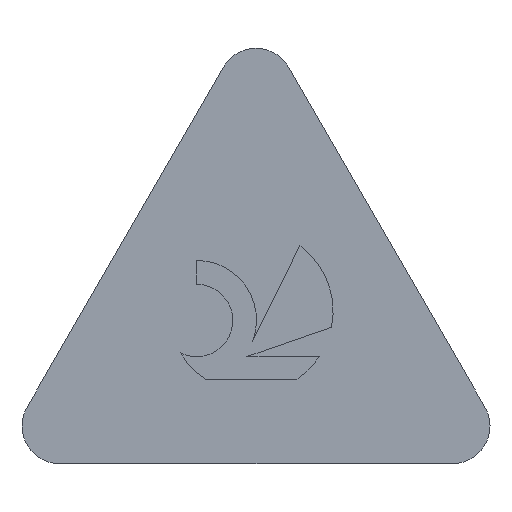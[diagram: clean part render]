
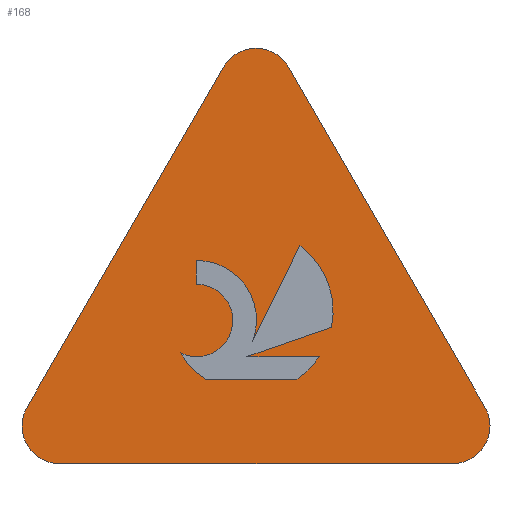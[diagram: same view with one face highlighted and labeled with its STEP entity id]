
A CAD part, top view. The second image highlights one B-rep face of the part: STEP entity #168.
In plain terms, the highlighted planar face has unit normal (0, 0, 1).
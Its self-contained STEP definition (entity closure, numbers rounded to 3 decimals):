
#130=EDGE_CURVE('',#166,#314,#358,.T.);
#132=VERTEX_POINT('',#360);
#142=VERTEX_POINT('',#371);
#146=VERTEX_POINT('',#375);
#154=VERTEX_POINT('',#386);
#166=VERTEX_POINT('',#399);
#168=ADVANCED_FACE('',(#401,#402),#403,.T.);
#172=VERTEX_POINT('',#407);
#182=EDGE_CURVE('',#146,#318,#418,.T.);
#184=EDGE_CURVE('',#132,#142,#420,.T.);
#188=VERTEX_POINT('',#424);
#194=VERTEX_POINT('',#431);
#198=VERTEX_POINT('',#435);
#206=EDGE_CURVE('',#306,#146,#444,.T.);
#216=EDGE_CURVE('',#284,#132,#454,.T.);
#234=VERTEX_POINT('',#473);
#240=EDGE_CURVE('',#272,#172,#479,.T.);
#248=EDGE_CURVE('',#154,#294,#487,.T.);
#252=EDGE_CURVE('',#142,#234,#491,.T.);
#260=EDGE_CURVE('',#234,#272,#500,.T.);
#272=VERTEX_POINT('',#514);
#274=EDGE_CURVE('',#198,#154,#516,.T.);
#276=EDGE_CURVE('',#288,#188,#518,.T.);
#280=EDGE_CURVE('',#194,#306,#523,.T.);
#284=VERTEX_POINT('',#528);
#288=VERTEX_POINT('',#532);
#294=VERTEX_POINT('',#538);
#306=VERTEX_POINT('',#551);
#310=EDGE_CURVE('',#172,#284,#555,.T.);
#314=VERTEX_POINT('',#559);
#318=VERTEX_POINT('',#564);
#326=EDGE_CURVE('',#314,#194,#573,.T.);
#334=EDGE_CURVE('',#294,#288,#583,.T.);
#338=EDGE_CURVE('',#188,#166,#587,.T.);
#340=EDGE_CURVE('',#318,#198,#589,.T.);
#358=LINE('',#598,#599);
#360=CARTESIAN_POINT('',(10.311,1.191,0.0));
#371=CARTESIAN_POINT('',(6.187,8.334,0.0));
#375=CARTESIAN_POINT('',(3.912,2.329,0.0));
#386=CARTESIAN_POINT('',(4.247,4.27,0.0));
#399=CARTESIAN_POINT('',(5.309,2.25,0.0));
#401=FACE_BOUND('',#652,.T.);
#402=FACE_OUTER_BOUND('',#653,.T.);
#403=PLANE('',#654);
#407=CARTESIAN_POINT('',(1.375,0.0,0.0));
#418=CIRCLE('',#677,0.761);
#420=LINE('',#680,#681);
#424=CARTESIAN_POINT('',(7.087,2.868,0.0));
#431=CARTESIAN_POINT('',(6.336,1.76,0.0));
#435=CARTESIAN_POINT('',(4.247,3.77,0.0));
#444=CIRCLE('',#709,1.724);
#454=CIRCLE('',#724,0.794);
#473=CARTESIAN_POINT('',(4.812,8.334,0.0));
#479=CIRCLE('',#758,0.794);
#487=CIRCLE('',#770,1.252);
#491=CIRCLE('',#777,0.794);
#500=LINE('',#789,#790);
#514=CARTESIAN_POINT('',(0.688,1.191,0.0));
#516=LINE('',#810,#811);
#518=CIRCLE('',#814,1.724);
#523=LINE('',#820,#821);
#528=CARTESIAN_POINT('',(9.623,0.0,0.0));
#532=CARTESIAN_POINT('',(6.422,4.59,0.0));
#538=CARTESIAN_POINT('',(5.426,2.568,0.0));
#551=CARTESIAN_POINT('',(4.457,1.76,0.0));
#555=LINE('',#865,#866);
#559=CARTESIAN_POINT('',(6.831,2.25,0.0));
#564=CARTESIAN_POINT('',(4.593,3.69,0.0));
#573=CIRCLE('',#887,1.724);
#583=LINE('',#900,#901);
#587=LINE('',#907,#908);
#589=CIRCLE('',#911,0.761);
#598=CARTESIAN_POINT('',(6.165,2.25,0.0));
#599=VECTOR('',#913,1.0);
#652=EDGE_LOOP('',(#972,#973,#974,#975,#976,#977,#978,#979,#980,#981,#982));
#653=EDGE_LOOP('',(#983,#984,#985,#986,#987,#988));
#654=AXIS2_PLACEMENT_3D('',#989,#990,#991);
#677=AXIS2_PLACEMENT_3D('',#1006,#1007,#1008);
#680=CARTESIAN_POINT('',(10.311,1.191,0.0));
#681=VECTOR('',#1009,1.0);
#709=AXIS2_PLACEMENT_3D('',#1029,#1030,#1031);
#724=AXIS2_PLACEMENT_3D('',#1034,#1035,#1036);
#758=AXIS2_PLACEMENT_3D('',#1049,#1050,#1051);
#770=AXIS2_PLACEMENT_3D('',#1056,#1057,#1058);
#777=AXIS2_PLACEMENT_3D('',#1060,#1061,#1062);
#789=CARTESIAN_POINT('',(4.812,8.334,0.0));
#790=VECTOR('',#1079,1.0);
#810=CARTESIAN_POINT('',(4.247,3.723,0.0));
#811=VECTOR('',#1100,1.0);
#814=AXIS2_PLACEMENT_3D('',#1101,#1102,#1103);
#820=CARTESIAN_POINT('',(4.978,1.76,0.0));
#821=VECTOR('',#1112,1.0);
#865=CARTESIAN_POINT('',(1.375,0.0,0.0));
#866=VECTOR('',#1137,1.0);
#887=AXIS2_PLACEMENT_3D('',#1155,#1156,#1157);
#900=CARTESIAN_POINT('',(6.051,3.838,0.0));
#901=VECTOR('',#1175,1.0);
#907=CARTESIAN_POINT('',(5.537,2.33,0.0));
#908=VECTOR('',#1179,1.0);
#911=AXIS2_PLACEMENT_3D('',#1180,#1181,#1182);
#913=DIRECTION('',(1.0,0.0,0.0));
#972=ORIENTED_EDGE('',*,*,#274,.T.);
#973=ORIENTED_EDGE('',*,*,#248,.T.);
#974=ORIENTED_EDGE('',*,*,#334,.T.);
#975=ORIENTED_EDGE('',*,*,#276,.T.);
#976=ORIENTED_EDGE('',*,*,#338,.T.);
#977=ORIENTED_EDGE('',*,*,#130,.T.);
#978=ORIENTED_EDGE('',*,*,#326,.T.);
#979=ORIENTED_EDGE('',*,*,#280,.T.);
#980=ORIENTED_EDGE('',*,*,#206,.T.);
#981=ORIENTED_EDGE('',*,*,#182,.T.);
#982=ORIENTED_EDGE('',*,*,#340,.T.);
#983=ORIENTED_EDGE('',*,*,#310,.T.);
#984=ORIENTED_EDGE('',*,*,#216,.T.);
#985=ORIENTED_EDGE('',*,*,#184,.T.);
#986=ORIENTED_EDGE('',*,*,#252,.T.);
#987=ORIENTED_EDGE('',*,*,#260,.T.);
#988=ORIENTED_EDGE('',*,*,#240,.T.);
#989=CARTESIAN_POINT('',(5.499,3.175,0.0));
#990=DIRECTION('',(0.0,0.0,1.0));
#991=DIRECTION('',(1.0,0.0,0.0));
#1006=CARTESIAN_POINT('',(4.252,3.009,0.0));
#1007=DIRECTION('',(0.0,0.0,1.0));
#1008=DIRECTION('',(-0.447,-0.894,0.0));
#1009=DIRECTION('',(-0.5,0.866,0.0));
#1029=CARTESIAN_POINT('',(5.396,3.205,0.0));
#1030=DIRECTION('',(-0.0,0.0,-1.0));
#1031=DIRECTION('',(-0.861,-0.508,0.0));
#1034=CARTESIAN_POINT('',(9.623,0.794,0.0));
#1035=DIRECTION('',(0.0,0.0,1.0));
#1036=DIRECTION('',(0.,-1.0,0.0));
#1049=CARTESIAN_POINT('',(1.375,0.794,0.0));
#1050=DIRECTION('',(0.0,0.0,1.0));
#1051=DIRECTION('',(-0.866,0.5,0.0));
#1056=CARTESIAN_POINT('',(4.257,3.018,0.0));
#1057=DIRECTION('',(0.0,-0.0,-1.0));
#1058=DIRECTION('',(0.933,-0.359,0.0));
#1060=CARTESIAN_POINT('',(5.499,7.937,0.0));
#1061=DIRECTION('',(0.0,-0.0,1.0));
#1062=DIRECTION('',(0.866,0.5,0.0));
#1079=DIRECTION('',(-0.5,-0.866,0.0));
#1100=DIRECTION('',(0.0,1.0,0.0));
#1101=CARTESIAN_POINT('',(5.396,3.205,0.0));
#1102=DIRECTION('',(0.0,-0.0,-1.0));
#1103=DIRECTION('',(0.981,-0.196,0.0));
#1112=DIRECTION('',(-1.0,0.0,0.0));
#1137=DIRECTION('',(1.0,0.0,0.0));
#1155=CARTESIAN_POINT('',(5.396,3.205,0.0));
#1156=DIRECTION('',(0.0,-0.0,-1.0));
#1157=DIRECTION('',(0.545,-0.838,0.0));
#1175=DIRECTION('',(0.442,0.897,-0.0));
#1179=DIRECTION('',(-0.945,-0.328,0.0));
#1180=CARTESIAN_POINT('',(4.252,3.009,0.0));
#1181=DIRECTION('',(0.0,0.0,1.0));
#1182=DIRECTION('',(-0.447,-0.894,0.0));
